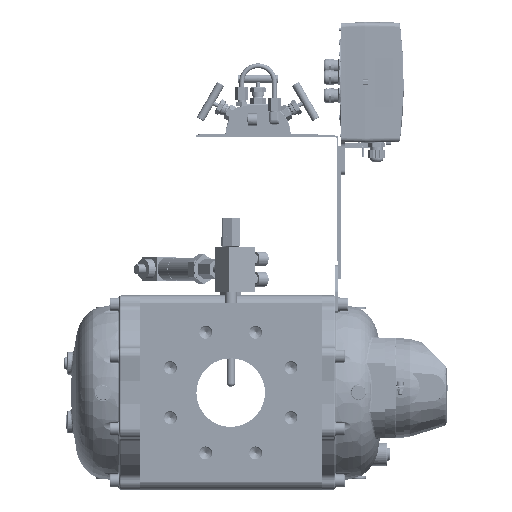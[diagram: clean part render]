
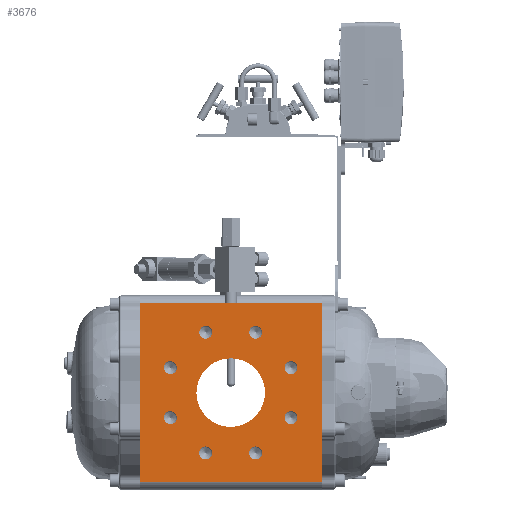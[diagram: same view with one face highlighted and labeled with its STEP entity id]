
A CAD part, front view. The second image highlights one B-rep face of the part: STEP entity #3676.
In plain terms, the highlighted planar face has unit normal (0, -1, 0).
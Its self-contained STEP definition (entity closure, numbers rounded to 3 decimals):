
#3676=ADVANCED_FACE('',(#286400,#286402,#286404,#286406,#286408,#286410,#286412,
#286414,#286416,#286418),#286420,.T.);
#286400=FACE_BOUND('',#286401,.T.);
#286401=EDGE_LOOP('',(#563914,#563915,#563916,#563917));
#286402=FACE_BOUND('',#286403,.T.);
#286403=EDGE_LOOP('',(#563918));
#286404=FACE_BOUND('',#286405,.T.);
#286405=EDGE_LOOP('',(#563919));
#286406=FACE_BOUND('',#286407,.T.);
#286407=EDGE_LOOP('',(#563920));
#286408=FACE_BOUND('',#286409,.T.);
#286409=EDGE_LOOP('',(#563921));
#286410=FACE_BOUND('',#286411,.T.);
#286411=EDGE_LOOP('',(#563922));
#286412=FACE_BOUND('',#286413,.T.);
#286413=EDGE_LOOP('',(#563923));
#286414=FACE_BOUND('',#286415,.T.);
#286415=EDGE_LOOP('',(#563924));
#286416=FACE_BOUND('',#286417,.T.);
#286417=EDGE_LOOP('',(#563925));
#286418=FACE_BOUND('',#286419,.T.);
#286419=EDGE_LOOP('',(#563926));
#286420=PLANE('',#286421);
#286421=AXIS2_PLACEMENT_3D('',#286422,#286423,#286424);
#286422=CARTESIAN_POINT('',(-223.,-120.5,110.));
#286423=DIRECTION('',(0.,-1.,0.));
#286424=DIRECTION('',(0.,0.,-1.));
#563914=ORIENTED_EDGE('',*,*,#776414,.T.);
#563915=ORIENTED_EDGE('',*,*,#776465,.T.);
#563916=ORIENTED_EDGE('',*,*,#776376,.T.);
#563917=ORIENTED_EDGE('',*,*,#776464,.F.);
#563918=ORIENTED_EDGE('',*,*,#776466,.T.);
#563919=ORIENTED_EDGE('',*,*,#776467,.T.);
#563920=ORIENTED_EDGE('',*,*,#776468,.T.);
#563921=ORIENTED_EDGE('',*,*,#776469,.T.);
#563922=ORIENTED_EDGE('',*,*,#776470,.T.);
#563923=ORIENTED_EDGE('',*,*,#776471,.T.);
#563924=ORIENTED_EDGE('',*,*,#776472,.T.);
#563925=ORIENTED_EDGE('',*,*,#776473,.T.);
#563926=ORIENTED_EDGE('',*,*,#776474,.T.);
#776376=EDGE_CURVE('',#866238,#866236,#866239,.T.);
#776414=EDGE_CURVE('',#866313,#866311,#866314,.T.);
#776464=EDGE_CURVE('',#866313,#866236,#866396,.T.);
#776465=EDGE_CURVE('',#866311,#866238,#866397,.T.);
#776466=EDGE_CURVE('',#866398,#866398,#866399,.T.);
#776467=EDGE_CURVE('',#866400,#866400,#866401,.T.);
#776468=EDGE_CURVE('',#866402,#866402,#866403,.T.);
#776469=EDGE_CURVE('',#866404,#866404,#866405,.T.);
#776470=EDGE_CURVE('',#866406,#866406,#866407,.T.);
#776471=EDGE_CURVE('',#866408,#866408,#866409,.T.);
#776472=EDGE_CURVE('',#866410,#866410,#866411,.T.);
#776473=EDGE_CURVE('',#866412,#866412,#866413,.T.);
#776474=EDGE_CURVE('',#866414,#866414,#866415,.T.);
#866236=VERTEX_POINT('',#1020392);
#866238=VERTEX_POINT('',#1020396);
#866239=LINE('',#1020397,#1020398);
#866311=VERTEX_POINT('',#1020569);
#866313=VERTEX_POINT('',#1020573);
#866314=LINE('',#1020574,#1020575);
#866396=LINE('',#1020890,#1020891);
#866397=LINE('',#1020893,#1020894);
#866398=VERTEX_POINT('',#1020896);
#866399=CIRCLE('',#1020897,7.917);
#866400=VERTEX_POINT('',#1020901);
#866401=CIRCLE('',#1020902,7.917);
#866402=VERTEX_POINT('',#1020906);
#866403=CIRCLE('',#1020907,7.917);
#866404=VERTEX_POINT('',#1020911);
#866405=CIRCLE('',#1020912,7.917);
#866406=VERTEX_POINT('',#1020916);
#866407=CIRCLE('',#1020917,7.917);
#866408=VERTEX_POINT('',#1020921);
#866409=CIRCLE('',#1020922,7.917);
#866410=VERTEX_POINT('',#1020926);
#866411=CIRCLE('',#1020927,7.917);
#866412=VERTEX_POINT('',#1020931);
#866413=CIRCLE('',#1020932,42.);
#866414=VERTEX_POINT('',#1020936);
#866415=CIRCLE('',#1020937,7.917);
#1020392=CARTESIAN_POINT('',(0.,-120.5,110.));
#1020396=CARTESIAN_POINT('',(0.,-120.5,-110.));
#1020397=CARTESIAN_POINT('',(0.,-120.5,-110.));
#1020398=VECTOR('',#1020399,1.);
#1020399=DIRECTION('',(0.,0.,1.));
#1020569=CARTESIAN_POINT('',(-223.,-120.5,-110.));
#1020573=CARTESIAN_POINT('',(-223.,-120.5,110.));
#1020574=CARTESIAN_POINT('',(-223.,-120.5,110.));
#1020575=VECTOR('',#1020576,1.);
#1020576=DIRECTION('',(0.,0.,-1.));
#1020890=CARTESIAN_POINT('',(-223.,-120.5,110.));
#1020891=VECTOR('',#1020892,1.);
#1020892=DIRECTION('',(1.,0.,0.));
#1020893=CARTESIAN_POINT('',(-223.,-120.5,-110.));
#1020894=VECTOR('',#1020895,1.);
#1020895=DIRECTION('',(1.,0.,0.));
#1020896=CARTESIAN_POINT('',(-134.197,-120.5,73.91));
#1020897=AXIS2_PLACEMENT_3D('',#1020898,#1020899,#1020900);
#1020898=CARTESIAN_POINT('',(-142.115,-120.5,73.91));
#1020899=DIRECTION('',(0.,1.,0.));
#1020900=DIRECTION('',(1.,0.,0.));
#1020901=CARTESIAN_POINT('',(-177.493,-120.5,30.615));
#1020902=AXIS2_PLACEMENT_3D('',#1020903,#1020904,#1020905);
#1020903=CARTESIAN_POINT('',(-185.41,-120.5,30.615));
#1020904=DIRECTION('',(0.,1.,0.));
#1020905=DIRECTION('',(1.,0.,0.));
#1020906=CARTESIAN_POINT('',(-29.672,-120.5,30.615));
#1020907=AXIS2_PLACEMENT_3D('',#1020908,#1020909,#1020910);
#1020908=CARTESIAN_POINT('',(-37.59,-120.5,30.615));
#1020909=DIRECTION('',(0.,1.,0.));
#1020910=DIRECTION('',(1.,0.,0.));
#1020911=CARTESIAN_POINT('',(-29.672,-120.5,-30.615));
#1020912=AXIS2_PLACEMENT_3D('',#1020913,#1020914,#1020915);
#1020913=CARTESIAN_POINT('',(-37.59,-120.5,-30.615));
#1020914=DIRECTION('',(0.,1.,0.));
#1020915=DIRECTION('',(1.,0.,0.));
#1020916=CARTESIAN_POINT('',(-72.968,-120.5,-73.91));
#1020917=AXIS2_PLACEMENT_3D('',#1020918,#1020919,#1020920);
#1020918=CARTESIAN_POINT('',(-80.885,-120.5,-73.91));
#1020919=DIRECTION('',(0.,1.,0.));
#1020920=DIRECTION('',(1.,0.,0.));
#1020921=CARTESIAN_POINT('',(-134.197,-120.5,-73.91));
#1020922=AXIS2_PLACEMENT_3D('',#1020923,#1020924,#1020925);
#1020923=CARTESIAN_POINT('',(-142.115,-120.5,-73.91));
#1020924=DIRECTION('',(0.,1.,0.));
#1020925=DIRECTION('',(1.,0.,0.));
#1020926=CARTESIAN_POINT('',(-177.493,-120.5,-30.615));
#1020927=AXIS2_PLACEMENT_3D('',#1020928,#1020929,#1020930);
#1020928=CARTESIAN_POINT('',(-185.41,-120.5,-30.615));
#1020929=DIRECTION('',(0.,1.,0.));
#1020930=DIRECTION('',(1.,0.,0.));
#1020931=CARTESIAN_POINT('',(-153.5,-120.5,0.));
#1020932=AXIS2_PLACEMENT_3D('',#1020933,#1020934,#1020935);
#1020933=CARTESIAN_POINT('',(-111.5,-120.5,0.));
#1020934=DIRECTION('',(0.,1.,0.));
#1020935=DIRECTION('',(-1.,0.,0.));
#1020936=CARTESIAN_POINT('',(-72.968,-120.5,73.91));
#1020937=AXIS2_PLACEMENT_3D('',#1020938,#1020939,#1020940);
#1020938=CARTESIAN_POINT('',(-80.885,-120.5,73.91));
#1020939=DIRECTION('',(0.,1.,0.));
#1020940=DIRECTION('',(1.,0.,0.));
